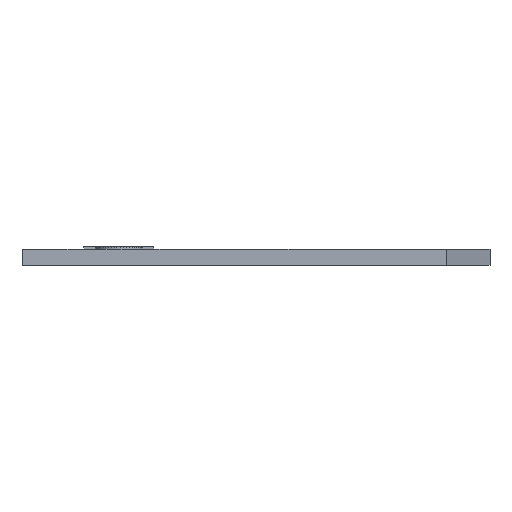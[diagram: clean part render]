
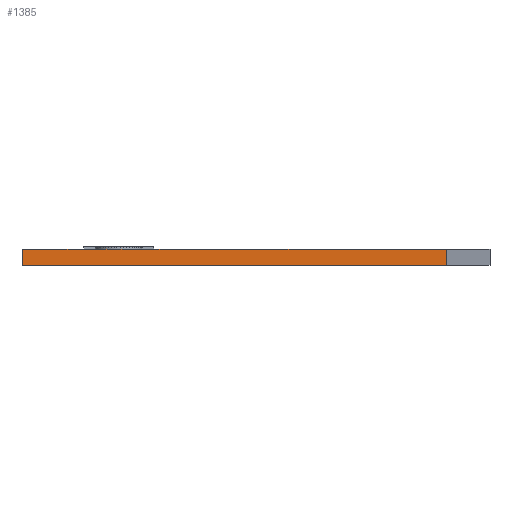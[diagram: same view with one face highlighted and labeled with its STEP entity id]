
A CAD part, front view. The second image highlights one B-rep face of the part: STEP entity #1385.
In plain terms, the highlighted planar face has unit normal (0, -1, 0).
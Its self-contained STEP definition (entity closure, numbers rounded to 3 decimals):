
#20=DIRECTION('',(-1.0,0.0,0.0));
#21=VECTOR('',#20,0.405);
#22=CARTESIAN_POINT('',(15.405,0.,0.));
#23=LINE('',#22,#21);
#24=VERTEX_POINT('',#22);
#25=CARTESIAN_POINT('',(15.,0.,0.));
#26=VERTEX_POINT('',#25);
#27=EDGE_CURVE('',#24,#26,#23,.T.);
#29=DIRECTION('',(1.0,0.0,0.0));
#30=VECTOR('',#29,5.874);
#31=CARTESIAN_POINT('',(9.126,0.,0.));
#32=LINE('',#31,#30);
#33=VERTEX_POINT('',#31);
#34=EDGE_CURVE('',#33,#26,#32,.T.);
#36=DIRECTION('',(-1.0,0.0,0.0));
#37=VECTOR('',#36,5.519);
#38=LINE('',#31,#37);
#39=CARTESIAN_POINT('',(3.606,0.,0.));
#40=VERTEX_POINT('',#39);
#41=EDGE_CURVE('',#33,#40,#38,.T.);
#43=DIRECTION('',(-1.0,0.0,0.0));
#44=VECTOR('',#43,3.606);
#45=LINE('',#39,#44);
#46=CARTESIAN_POINT('',(0.,0.,0.));
#47=VERTEX_POINT('',#46);
#48=EDGE_CURVE('',#40,#47,#45,.T.);
#283=CARTESIAN_POINT('',(79.0,0.,0.));
#285=VERTEX_POINT('',#283);
#288=DIRECTION('',(1.0,0.0,0.));
#289=VECTOR('',#288,22.627);
#290=CARTESIAN_POINT('',(56.373,0.,0.));
#291=LINE('',#290,#289);
#292=VERTEX_POINT('',#290);
#293=EDGE_CURVE('',#292,#285,#291,.T.);
#295=DIRECTION('',(-1.0,0.0,0.0));
#296=VECTOR('',#295,22.084);
#297=LINE('',#290,#296);
#298=CARTESIAN_POINT('',(34.289,0.,0.));
#299=VERTEX_POINT('',#298);
#300=EDGE_CURVE('',#292,#299,#297,.T.);
#302=DIRECTION('',(-1.0,0.0,0.0));
#303=VECTOR('',#302,0.564);
#304=LINE('',#298,#303);
#305=CARTESIAN_POINT('',(33.725,0.,0.));
#306=VERTEX_POINT('',#305);
#307=EDGE_CURVE('',#299,#306,#304,.T.);
#309=DIRECTION('',(-1.0,0.0,0.0));
#310=VECTOR('',#309,6.175);
#311=LINE('',#305,#310);
#312=CARTESIAN_POINT('',(27.55,0.,0.));
#313=VERTEX_POINT('',#312);
#314=EDGE_CURVE('',#306,#313,#311,.T.);
#316=DIRECTION('',(-1.0,0.0,0.0));
#317=VECTOR('',#316,4.923);
#318=LINE('',#312,#317);
#319=CARTESIAN_POINT('',(22.627,0.,0.));
#320=VERTEX_POINT('',#319);
#321=EDGE_CURVE('',#313,#320,#318,.T.);
#323=DIRECTION('',(-1.0,0.0,0.0));
#324=VECTOR('',#323,5.222);
#325=LINE('',#319,#324);
#326=CARTESIAN_POINT('',(17.405,0.,0.));
#327=VERTEX_POINT('',#326);
#328=EDGE_CURVE('',#320,#327,#325,.T.);
#330=DIRECTION('',(1.0,0.0,0.0));
#331=VECTOR('',#330,0.209);
#332=CARTESIAN_POINT('',(17.196,0.,0.));
#333=LINE('',#332,#331);
#334=VERTEX_POINT('',#332);
#335=EDGE_CURVE('',#334,#327,#333,.T.);
#337=DIRECTION('',(1.0,0.0,0.0));
#338=VECTOR('',#337,1.791);
#339=LINE('',#22,#338);
#340=EDGE_CURVE('',#24,#334,#339,.T.);
#1249=CARTESIAN_POINT('',(15.,0.,0.));
#1250=DIRECTION('',(0.0,-1.0,0.0));
#1251=DIRECTION('',(0.0,0.0,1.0));
#1252=AXIS2_PLACEMENT_3D('',#1249,#1250,#1251);
#1253=PLANE('',#1252);
#1254=ORIENTED_EDGE('',*,*,#27,.F.);
#1255=ORIENTED_EDGE('',*,*,#340,.T.);
#1256=ORIENTED_EDGE('',*,*,#335,.T.);
#1257=ORIENTED_EDGE('',*,*,#328,.F.);
#1258=ORIENTED_EDGE('',*,*,#321,.F.);
#1259=ORIENTED_EDGE('',*,*,#314,.F.);
#1260=ORIENTED_EDGE('',*,*,#307,.F.);
#1261=ORIENTED_EDGE('',*,*,#300,.F.);
#1262=ORIENTED_EDGE('',*,*,#293,.T.);
#1263=DIRECTION('',(0.0,0.0,1.0));
#1264=VECTOR('',#1263,2.98);
#1265=LINE('',#283,#1264);
#1266=CARTESIAN_POINT('',(79.0,0.,2.98));
#1267=VERTEX_POINT('',#1266);
#1268=EDGE_CURVE('',#285,#1267,#1265,.T.);
#1269=ORIENTED_EDGE('',*,*,#1268,.T.);
#1270=DIRECTION('',(0.0,0.0,1.0));
#1271=VECTOR('',#1270,0.02);
#1272=LINE('',#1266,#1271);
#1273=CARTESIAN_POINT('',(79.0,0.,3.0));
#1274=VERTEX_POINT('',#1273);
#1275=EDGE_CURVE('',#1267,#1274,#1272,.T.);
#1276=ORIENTED_EDGE('',*,*,#1275,.T.);
#1277=DIRECTION('',(1.0,0.0,0.0));
#1278=VECTOR('',#1277,22.627);
#1279=CARTESIAN_POINT('',(56.373,0.,3.0));
#1280=LINE('',#1279,#1278);
#1281=VERTEX_POINT('',#1279);
#1282=EDGE_CURVE('',#1281,#1274,#1280,.T.);
#1283=ORIENTED_EDGE('',*,*,#1282,.F.);
#1284=DIRECTION('',(-1.0,0.0,0.0));
#1285=VECTOR('',#1284,22.084);
#1286=LINE('',#1279,#1285);
#1287=CARTESIAN_POINT('',(34.289,0.,3.0));
#1288=VERTEX_POINT('',#1287);
#1289=EDGE_CURVE('',#1281,#1288,#1286,.T.);
#1290=ORIENTED_EDGE('',*,*,#1289,.T.);
#1291=DIRECTION('',(-1.0,0.0,0.0));
#1292=VECTOR('',#1291,0.564);
#1293=LINE('',#1287,#1292);
#1294=CARTESIAN_POINT('',(33.725,0.,3.0));
#1295=VERTEX_POINT('',#1294);
#1296=EDGE_CURVE('',#1288,#1295,#1293,.T.);
#1297=ORIENTED_EDGE('',*,*,#1296,.T.);
#1298=DIRECTION('',(-1.0,0.0,0.0));
#1299=VECTOR('',#1298,6.175);
#1300=LINE('',#1294,#1299);
#1301=CARTESIAN_POINT('',(27.55,0.,3.0));
#1302=VERTEX_POINT('',#1301);
#1303=EDGE_CURVE('',#1295,#1302,#1300,.T.);
#1304=ORIENTED_EDGE('',*,*,#1303,.T.);
#1305=DIRECTION('',(-1.0,0.0,0.0));
#1306=VECTOR('',#1305,4.923);
#1307=LINE('',#1301,#1306);
#1308=CARTESIAN_POINT('',(22.627,0.,3.0));
#1309=VERTEX_POINT('',#1308);
#1310=EDGE_CURVE('',#1302,#1309,#1307,.T.);
#1311=ORIENTED_EDGE('',*,*,#1310,.T.);
#1312=DIRECTION('',(-1.0,0.0,0.0));
#1313=VECTOR('',#1312,4.227);
#1314=LINE('',#1308,#1313);
#1315=CARTESIAN_POINT('',(18.4,0.,3.0));
#1316=VERTEX_POINT('',#1315);
#1317=EDGE_CURVE('',#1309,#1316,#1314,.T.);
#1318=ORIENTED_EDGE('',*,*,#1317,.T.);
#1319=DIRECTION('',(-1.0,0.0,0.0));
#1320=VECTOR('',#1319,0.995);
#1321=LINE('',#1315,#1320);
#1322=CARTESIAN_POINT('',(17.405,0.,3.0));
#1323=VERTEX_POINT('',#1322);
#1324=EDGE_CURVE('',#1316,#1323,#1321,.T.);
#1325=ORIENTED_EDGE('',*,*,#1324,.T.);
#1326=DIRECTION('',(1.0,0.0,0.0));
#1327=VECTOR('',#1326,0.209);
#1328=CARTESIAN_POINT('',(17.196,0.,3.0));
#1329=LINE('',#1328,#1327);
#1330=VERTEX_POINT('',#1328);
#1331=EDGE_CURVE('',#1330,#1323,#1329,.T.);
#1332=ORIENTED_EDGE('',*,*,#1331,.F.);
#1333=DIRECTION('',(1.0,0.0,0.0));
#1334=VECTOR('',#1333,1.791);
#1335=CARTESIAN_POINT('',(15.405,0.,3.0));
#1336=LINE('',#1335,#1334);
#1337=VERTEX_POINT('',#1335);
#1338=EDGE_CURVE('',#1337,#1330,#1336,.T.);
#1339=ORIENTED_EDGE('',*,*,#1338,.F.);
#1340=DIRECTION('',(-1.0,0.0,0.0));
#1341=VECTOR('',#1340,0.405);
#1342=LINE('',#1335,#1341);
#1343=CARTESIAN_POINT('',(15.0,0.,3.0));
#1344=VERTEX_POINT('',#1343);
#1345=EDGE_CURVE('',#1337,#1344,#1342,.T.);
#1346=ORIENTED_EDGE('',*,*,#1345,.T.);
#1347=DIRECTION('',(-1.0,0.0,0.0));
#1348=VECTOR('',#1347,5.874);
#1349=LINE('',#1343,#1348);
#1350=CARTESIAN_POINT('',(9.126,0.,3.0));
#1351=VERTEX_POINT('',#1350);
#1352=EDGE_CURVE('',#1344,#1351,#1349,.T.);
#1353=ORIENTED_EDGE('',*,*,#1352,.T.);
#1354=DIRECTION('',(-1.0,0.0,0.0));
#1355=VECTOR('',#1354,5.519);
#1356=LINE('',#1350,#1355);
#1357=CARTESIAN_POINT('',(3.606,0.,3.0));
#1358=VERTEX_POINT('',#1357);
#1359=EDGE_CURVE('',#1351,#1358,#1356,.T.);
#1360=ORIENTED_EDGE('',*,*,#1359,.T.);
#1361=DIRECTION('',(-1.0,0.0,0.0));
#1362=VECTOR('',#1361,3.606);
#1363=LINE('',#1357,#1362);
#1364=CARTESIAN_POINT('',(0.,0.,3.0));
#1365=VERTEX_POINT('',#1364);
#1366=EDGE_CURVE('',#1358,#1365,#1363,.T.);
#1367=ORIENTED_EDGE('',*,*,#1366,.T.);
#1368=DIRECTION('',(0.0,0.0,1.0));
#1369=VECTOR('',#1368,0.02);
#1370=CARTESIAN_POINT('',(0.,0.,2.98));
#1371=LINE('',#1370,#1369);
#1372=VERTEX_POINT('',#1370);
#1373=EDGE_CURVE('',#1372,#1365,#1371,.T.);
#1374=ORIENTED_EDGE('',*,*,#1373,.F.);
#1375=DIRECTION('',(0.0,0.0,1.0));
#1376=VECTOR('',#1375,2.98);
#1377=LINE('',#46,#1376);
#1378=EDGE_CURVE('',#47,#1372,#1377,.T.);
#1379=ORIENTED_EDGE('',*,*,#1378,.F.);
#1380=ORIENTED_EDGE('',*,*,#48,.F.);
#1381=ORIENTED_EDGE('',*,*,#41,.F.);
#1382=ORIENTED_EDGE('',*,*,#34,.T.);
#1383=EDGE_LOOP('',(#1254,#1255,#1256,#1257,#1258,#1259,#1260,#1261,#1262,#1269,#1276,#1283,#1290,#1297,#1304,#1311,#1318,#1325,#1332,#1339,#1346,#1353,#1360,#1367,#1374,#1379,#1380,#1381,#1382));
#1384=FACE_OUTER_BOUND('',#1383,.T.);
#1385=ADVANCED_FACE('',(#1384),#1253,.T.);
